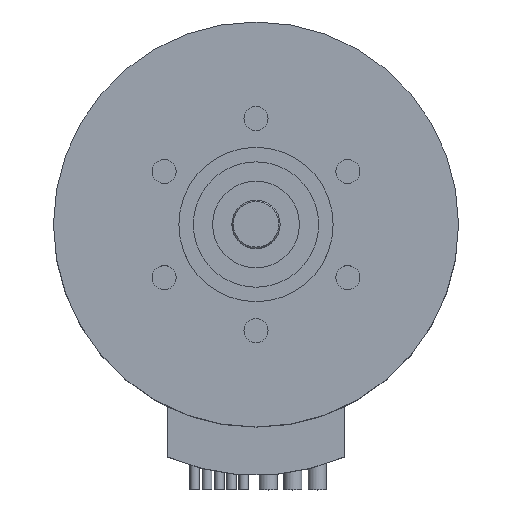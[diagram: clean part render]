
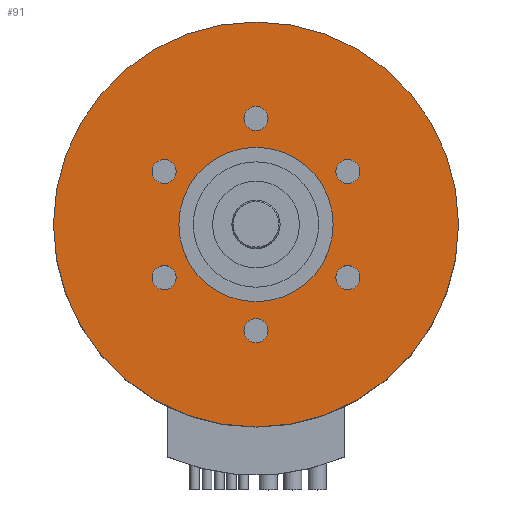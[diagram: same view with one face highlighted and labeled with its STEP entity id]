
A CAD part, top view. The second image highlights one B-rep face of the part: STEP entity #91.
In plain terms, the highlighted planar face has unit normal (0, 0, 1).
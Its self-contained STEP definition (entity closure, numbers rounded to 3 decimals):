
#63=PLANE('',#787);
#91=ADVANCED_FACE('',(#205,#206,#207,#208,#209,#210,#211,#212),#63,.T.);
#205=FACE_BOUND('',#309,.T.);
#206=FACE_BOUND('',#310,.T.);
#207=FACE_BOUND('',#311,.T.);
#208=FACE_BOUND('',#312,.T.);
#209=FACE_BOUND('',#313,.T.);
#210=FACE_BOUND('',#314,.T.);
#211=FACE_BOUND('',#315,.T.);
#212=FACE_BOUND('',#316,.T.);
#309=EDGE_LOOP('',(#436));
#310=EDGE_LOOP('',(#437));
#311=EDGE_LOOP('',(#438));
#312=EDGE_LOOP('',(#439));
#313=EDGE_LOOP('',(#440));
#314=EDGE_LOOP('',(#441));
#315=EDGE_LOOP('',(#442));
#316=EDGE_LOOP('',(#443));
#436=ORIENTED_EDGE('',*,*,#645,.T.);
#437=ORIENTED_EDGE('',*,*,#646,.T.);
#438=ORIENTED_EDGE('',*,*,#647,.T.);
#439=ORIENTED_EDGE('',*,*,#648,.T.);
#440=ORIENTED_EDGE('',*,*,#649,.T.);
#441=ORIENTED_EDGE('',*,*,#650,.T.);
#442=ORIENTED_EDGE('',*,*,#651,.F.);
#443=ORIENTED_EDGE('',*,*,#643,.F.);
#576=VERTEX_POINT('',#1181);
#578=VERTEX_POINT('',#1186);
#579=VERTEX_POINT('',#1188);
#580=VERTEX_POINT('',#1190);
#581=VERTEX_POINT('',#1192);
#582=VERTEX_POINT('',#1194);
#583=VERTEX_POINT('',#1196);
#584=VERTEX_POINT('',#1198);
#643=EDGE_CURVE('',#576,#576,#712,.T.);
#645=EDGE_CURVE('',#578,#578,#714,.T.);
#646=EDGE_CURVE('',#579,#579,#715,.T.);
#647=EDGE_CURVE('',#580,#580,#716,.T.);
#648=EDGE_CURVE('',#581,#581,#717,.T.);
#649=EDGE_CURVE('',#582,#582,#718,.T.);
#650=EDGE_CURVE('',#583,#583,#719,.T.);
#651=EDGE_CURVE('',#584,#584,#720,.T.);
#712=CIRCLE('',#777,21.);
#714=CIRCLE('',#780,1.25);
#715=CIRCLE('',#781,1.25);
#716=CIRCLE('',#782,1.25);
#717=CIRCLE('',#783,1.25);
#718=CIRCLE('',#784,1.25);
#719=CIRCLE('',#785,1.25);
#720=CIRCLE('',#786,8.);
#777=AXIS2_PLACEMENT_3D('',#1180,#914,#915);
#780=AXIS2_PLACEMENT_3D('',#1185,#920,#921);
#781=AXIS2_PLACEMENT_3D('',#1187,#922,#923);
#782=AXIS2_PLACEMENT_3D('',#1189,#924,#925);
#783=AXIS2_PLACEMENT_3D('',#1191,#926,#927);
#784=AXIS2_PLACEMENT_3D('',#1193,#928,#929);
#785=AXIS2_PLACEMENT_3D('',#1195,#930,#931);
#786=AXIS2_PLACEMENT_3D('',#1197,#932,#933);
#787=AXIS2_PLACEMENT_3D('',#1199,#934,#935);
#914=DIRECTION('',(0.,0.,-1.));
#915=DIRECTION('',(1.,0.,0.));
#920=DIRECTION('',(0.,0.,-1.));
#921=DIRECTION('',(-1.,0.,0.));
#922=DIRECTION('',(0.,0.,-1.));
#923=DIRECTION('',(-1.,0.,0.));
#924=DIRECTION('',(0.,0.,-1.));
#925=DIRECTION('',(-1.,0.,0.));
#926=DIRECTION('',(0.,0.,-1.));
#927=DIRECTION('',(-1.,0.,0.));
#928=DIRECTION('',(0.,0.,-1.));
#929=DIRECTION('',(-1.,0.,0.));
#930=DIRECTION('',(0.,0.,-1.));
#931=DIRECTION('',(-1.,0.,0.));
#932=DIRECTION('',(0.,0.,1.));
#933=DIRECTION('',(1.,0.,0.));
#934=DIRECTION('',(0.,0.,1.));
#935=DIRECTION('',(1.,0.,0.));
#1180=CARTESIAN_POINT('',(0.,0.,0.));
#1181=CARTESIAN_POINT('',(21.,0.,0.));
#1185=CARTESIAN_POINT('',(9.526,5.5,0.));
#1186=CARTESIAN_POINT('',(8.276,5.5,0.));
#1187=CARTESIAN_POINT('',(9.526,-5.5,0.));
#1188=CARTESIAN_POINT('',(8.276,-5.5,0.));
#1189=CARTESIAN_POINT('',(0.,-11.,0.));
#1190=CARTESIAN_POINT('',(-1.25,-11.,0.));
#1191=CARTESIAN_POINT('',(-9.526,-5.5,0.));
#1192=CARTESIAN_POINT('',(-10.776,-5.5,0.));
#1193=CARTESIAN_POINT('',(-9.526,5.5,0.));
#1194=CARTESIAN_POINT('',(-10.776,5.5,0.));
#1195=CARTESIAN_POINT('',(0.,11.,0.));
#1196=CARTESIAN_POINT('',(-1.25,11.,0.));
#1197=CARTESIAN_POINT('',(0.,0.,0.));
#1198=CARTESIAN_POINT('',(8.,0.,0.));
#1199=CARTESIAN_POINT('',(0.,0.,0.));
